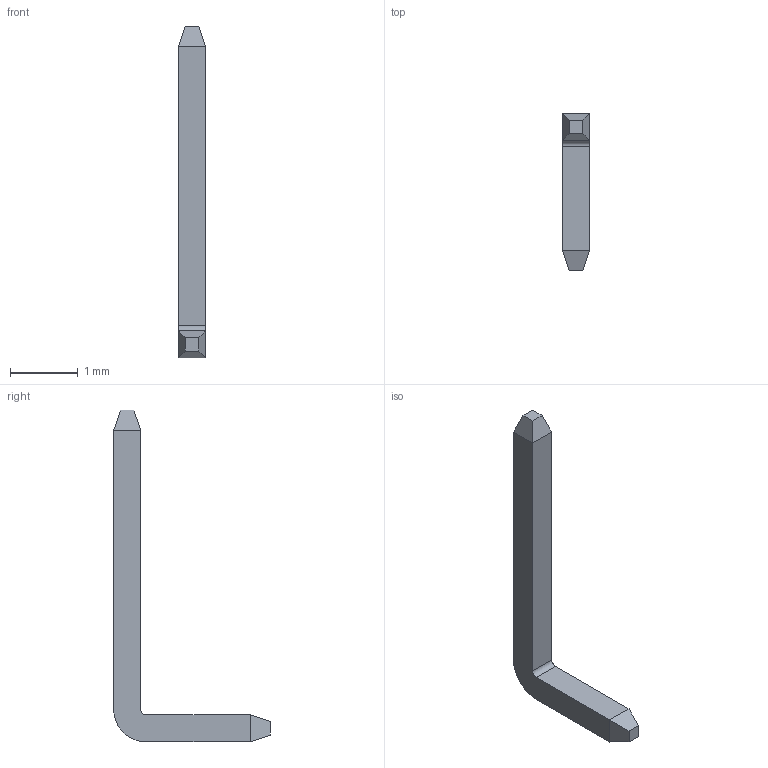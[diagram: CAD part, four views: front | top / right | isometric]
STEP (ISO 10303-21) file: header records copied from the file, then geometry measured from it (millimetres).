
FILE_DESCRIPTION(/* description */ ('STEP AP242 Edition 2','CAx-IF Rec.Pracs.---Representation and Presentation of Product Manufacturing Information (PMI)---4.0---2014-10-13','CAx-IF Rec.Pracs.---3D Tessellated Geometry---0.4---2014-09-14','2;1','CAx-IF Rec.Pracs.---User Defined Attributes---1.5---2016-08-15'),/* implementation_level */ '2;1');
FILE_NAME(/* name */ 'v2_assembly - 802-2195SM-XXG_1',/* time_stamp */ '2026-05-19T16:26:03Z',/* author */ (''),/* organization */ (''),/* preprocessor_version */ 'ST-DEVELOPER v20',/* originating_system */ 'ONSHAPE BY PTC INC, 1.215',/* authorisation */ ' ');
FILE_SCHEMA (('AP242_MANAGED_MODEL_BASED_3D_ENGINEERING_MIM_LF { 1 0 10303 442 3 1 4 }'));
Length unit declared in the file: metre
Products named in the file (1): 802-2195SM-XXG_1
Bounding box: 0.4 x 2.31 x 4.9 mm (x, y, z)
Volume: 1 mm3; surface area: 10.6 mm2
Topology: 1 solids, 1 shells, 18 faces, 40 edges, 24 vertices
Faces by surface type: plane 16, cylinder 2
Entity records: 506 total; most frequent: CARTESIAN_POINT 83, DIRECTION 82, ORIENTED_EDGE 80, EDGE_CURVE 40, LINE 36, VECTOR 36, VERTEX_POINT 24, AXIS2_PLACEMENT_3D 23
